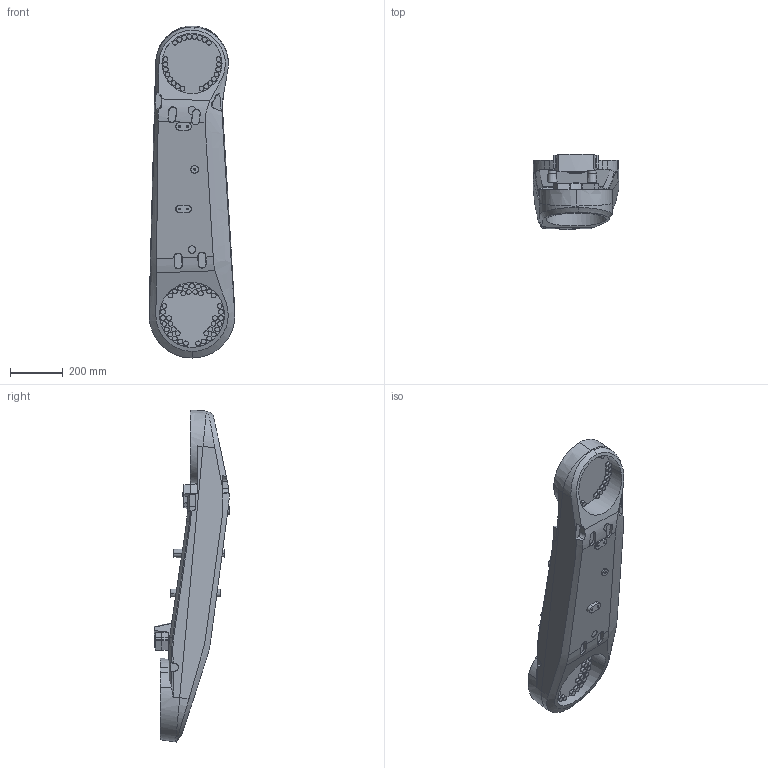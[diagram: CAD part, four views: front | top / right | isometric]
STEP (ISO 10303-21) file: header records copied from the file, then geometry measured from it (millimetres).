
FILE_DESCRIPTION (( 'STEP AP214' ), '1' );
FILE_NAME ('IRB5710-MH3_90kg-270_OmniCore_rev00_LINK02_CAD.step', '2025-07-08T11:35:52', ( '' ), ( '' ), 'SwSTEP 2.0', 'SolidWorks 2024', '' );
FILE_SCHEMA (( 'AUTOMOTIVE_DESIGN' ));
Length unit declared in the file: millimetre
Products named in the file (1): IRB5710-MH3_90kg-270_OmniCore_rev00_LINK02_CAD
Bounding box: 324.85 x 285 x 1254.29 mm (x, y, z)
Volume: 37798293.6 mm3; surface area: 1322719.4 mm2
Topology: 1 solids, 1 shells, 535 faces, 1274 edges, 821 vertices
Faces by surface type: plane 241, cylinder 179, cone 59, bspline 56
Entity records: 26565 total; most frequent: CARTESIAN_POINT 14349, ORIENTED_EDGE 2524, DIRECTION 2318, EDGE_CURVE 1262, AXIS2_PLACEMENT_3D 883, VERTEX_POINT 821, EDGE_LOOP 627, VECTOR 552
